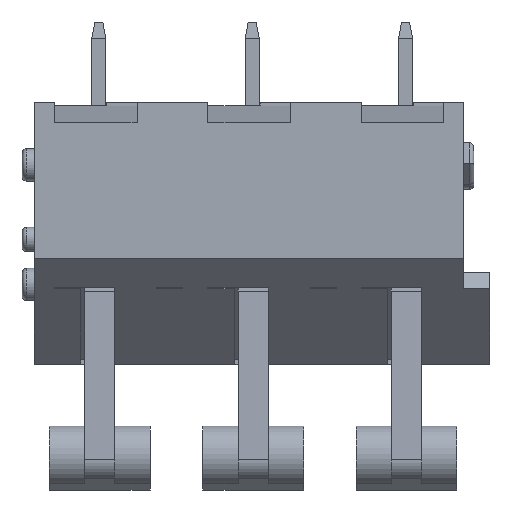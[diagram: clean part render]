
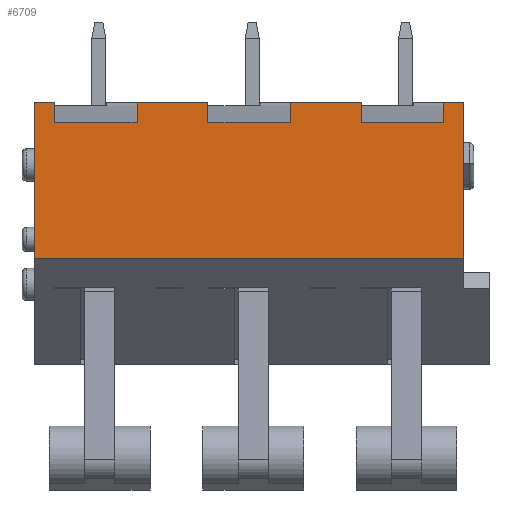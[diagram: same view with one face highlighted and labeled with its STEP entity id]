
A CAD part, left-side view. The second image highlights one B-rep face of the part: STEP entity #6709.
In plain terms, the highlighted planar face has unit normal (-1, 0, 0).
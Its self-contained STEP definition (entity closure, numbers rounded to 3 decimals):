
#597=DIRECTION('',(0.,0.,-1.));
#598=VECTOR('',#597,7.75);
#599=CARTESIAN_POINT('',(0.,6.08,0.));
#600=LINE('',#599,#598);
#719=DIRECTION('',(0.,-1.,0.));
#720=VECTOR('',#719,1.);
#721=CARTESIAN_POINT('',(0.,6.08,0.));
#722=LINE('',#721,#720);
#723=DIRECTION('',(0.,0.,-1.));
#724=VECTOR('',#723,1.);
#725=CARTESIAN_POINT('',(0.,5.08,0.));
#726=LINE('',#725,#724);
#727=DIRECTION('',(0.,0.,1.));
#728=VECTOR('',#727,1.);
#729=CARTESIAN_POINT('',(0.,0.98,-1.));
#730=LINE('',#729,#728);
#731=DIRECTION('',(0.,0.,-1.));
#732=VECTOR('',#731,1.);
#733=CARTESIAN_POINT('',(0.,-2.54,0.));
#734=LINE('',#733,#732);
#735=DIRECTION('',(0.,0.,1.));
#736=VECTOR('',#735,1.);
#737=CARTESIAN_POINT('',(0.,-6.64,-1.));
#738=LINE('',#737,#736);
#739=DIRECTION('',(0.,0.,-1.));
#740=VECTOR('',#739,1.);
#741=CARTESIAN_POINT('',(0.,-10.16,0.));
#742=LINE('',#741,#740);
#743=DIRECTION('',(0.,0.,1.));
#744=VECTOR('',#743,1.);
#745=CARTESIAN_POINT('',(0.,-14.26,-1.));
#746=LINE('',#745,#744);
#747=DIRECTION('',(0.,-1.,0.));
#748=VECTOR('',#747,0.98);
#749=CARTESIAN_POINT('',(0.,-14.26,0.));
#750=LINE('',#749,#748);
#751=DIRECTION('',(0.,0.,-1.));
#752=VECTOR('',#751,7.75);
#753=CARTESIAN_POINT('',(0.,-15.24,0.));
#754=LINE('',#753,#752);
#763=DIRECTION('',(0.,-1.,0.));
#764=VECTOR('',#763,21.32);
#765=CARTESIAN_POINT('',(0.,6.08,-7.75));
#766=LINE('',#765,#764);
#3012=DIRECTION('',(0.,1.,0.));
#3013=VECTOR('',#3012,4.1);
#3014=CARTESIAN_POINT('',(0.,-14.26,-1.));
#3015=LINE('',#3014,#3013);
#3024=DIRECTION('',(0.,1.,0.));
#3025=VECTOR('',#3024,4.1);
#3026=CARTESIAN_POINT('',(0.,-6.64,-1.));
#3027=LINE('',#3026,#3025);
#3044=DIRECTION('',(0.,1.,0.));
#3045=VECTOR('',#3044,4.1);
#3046=CARTESIAN_POINT('',(0.,0.98,-1.));
#3047=LINE('',#3046,#3045);
#3288=DIRECTION('',(0.,1.,0.));
#3289=VECTOR('',#3288,3.52);
#3290=CARTESIAN_POINT('',(0.,-2.54,0.));
#3291=LINE('',#3290,#3289);
#3348=DIRECTION('',(0.,1.,0.));
#3349=VECTOR('',#3348,3.52);
#3350=CARTESIAN_POINT('',(0.,-10.16,0.));
#3351=LINE('',#3350,#3349);
#4491=CARTESIAN_POINT('',(0.,6.08,-7.75));
#4492=VERTEX_POINT('',#4491);
#4493=CARTESIAN_POINT('',(0.,-15.24,-7.75));
#4494=VERTEX_POINT('',#4493);
#4547=CARTESIAN_POINT('',(0.,5.08,0.));
#4548=CARTESIAN_POINT('',(0.,5.08,-1.));
#4549=VERTEX_POINT('',#4547);
#4550=VERTEX_POINT('',#4548);
#4665=CARTESIAN_POINT('',(0.,0.98,-1.));
#4666=VERTEX_POINT('',#4665);
#4822=CARTESIAN_POINT('',(0.,6.08,0.));
#4823=VERTEX_POINT('',#4822);
#4844=CARTESIAN_POINT('',(0.,0.98,0.));
#4845=VERTEX_POINT('',#4844);
#4846=CARTESIAN_POINT('',(0.,-2.54,0.));
#4847=VERTEX_POINT('',#4846);
#4848=CARTESIAN_POINT('',(0.,-2.54,-1.));
#4849=VERTEX_POINT('',#4848);
#4850=CARTESIAN_POINT('',(0.,-6.64,-1.));
#4851=VERTEX_POINT('',#4850);
#4852=CARTESIAN_POINT('',(0.,-6.64,0.));
#4853=VERTEX_POINT('',#4852);
#4854=CARTESIAN_POINT('',(0.,-10.16,0.));
#4855=VERTEX_POINT('',#4854);
#4856=CARTESIAN_POINT('',(0.,-10.16,-1.));
#4857=VERTEX_POINT('',#4856);
#4858=CARTESIAN_POINT('',(0.,-14.26,-1.));
#4859=VERTEX_POINT('',#4858);
#4860=CARTESIAN_POINT('',(0.,-14.26,0.));
#4861=VERTEX_POINT('',#4860);
#4862=CARTESIAN_POINT('',(0.,-15.24,0.));
#4863=VERTEX_POINT('',#4862);
#6674=CARTESIAN_POINT('',(0.,0.,-7.75));
#6675=DIRECTION('',(-1.,0.,0.));
#6676=DIRECTION('',(0.,0.,1.));
#6677=AXIS2_PLACEMENT_3D('',#6674,#6675,#6676);
#6678=PLANE('',#6677);
#6680=ORIENTED_EDGE('',*,*,#6679,.F.);
#6681=ORIENTED_EDGE('',*,*,#6584,.F.);
#6682=ORIENTED_EDGE('',*,*,#6668,.T.);
#6683=ORIENTED_EDGE('',*,*,#6376,.T.);
#6685=ORIENTED_EDGE('',*,*,#6684,.F.);
#6687=ORIENTED_EDGE('',*,*,#6686,.T.);
#6689=ORIENTED_EDGE('',*,*,#6688,.F.);
#6691=ORIENTED_EDGE('',*,*,#6690,.T.);
#6693=ORIENTED_EDGE('',*,*,#6692,.F.);
#6695=ORIENTED_EDGE('',*,*,#6694,.T.);
#6697=ORIENTED_EDGE('',*,*,#6696,.F.);
#6699=ORIENTED_EDGE('',*,*,#6698,.T.);
#6701=ORIENTED_EDGE('',*,*,#6700,.F.);
#6703=ORIENTED_EDGE('',*,*,#6702,.T.);
#6705=ORIENTED_EDGE('',*,*,#6704,.T.);
#6706=ORIENTED_EDGE('',*,*,#6028,.T.);
#6707=EDGE_LOOP('',(#6680,#6681,#6682,#6683,#6685,#6687,#6689,#6691,#6693,#6695,
#6697,#6699,#6701,#6703,#6705,#6706));
#6708=FACE_OUTER_BOUND('',#6707,.F.);
#6709=ADVANCED_FACE('',(#6708),#6678,.T.);
#6028=EDGE_CURVE('',#4863,#4494,#754,.T.);
#6376=EDGE_CURVE('',#4549,#4550,#726,.T.);
#6584=EDGE_CURVE('',#4823,#4492,#600,.T.);
#6668=EDGE_CURVE('',#4823,#4549,#722,.T.);
#6679=EDGE_CURVE('',#4492,#4494,#766,.T.);
#6684=EDGE_CURVE('',#4666,#4550,#3047,.T.);
#6686=EDGE_CURVE('',#4666,#4845,#730,.T.);
#6688=EDGE_CURVE('',#4847,#4845,#3291,.T.);
#6690=EDGE_CURVE('',#4847,#4849,#734,.T.);
#6692=EDGE_CURVE('',#4851,#4849,#3027,.T.);
#6694=EDGE_CURVE('',#4851,#4853,#738,.T.);
#6696=EDGE_CURVE('',#4855,#4853,#3351,.T.);
#6698=EDGE_CURVE('',#4855,#4857,#742,.T.);
#6700=EDGE_CURVE('',#4859,#4857,#3015,.T.);
#6702=EDGE_CURVE('',#4859,#4861,#746,.T.);
#6704=EDGE_CURVE('',#4861,#4863,#750,.T.);
